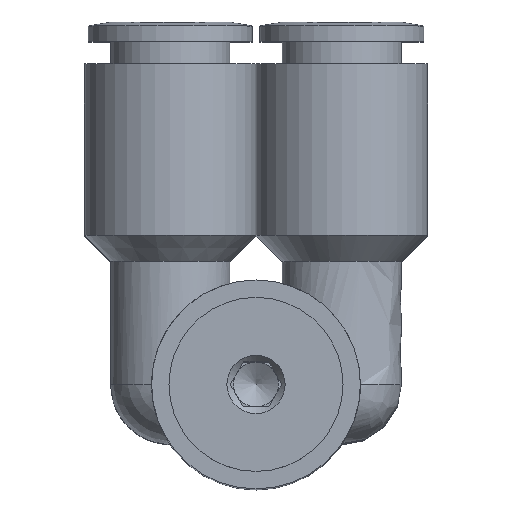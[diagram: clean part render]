
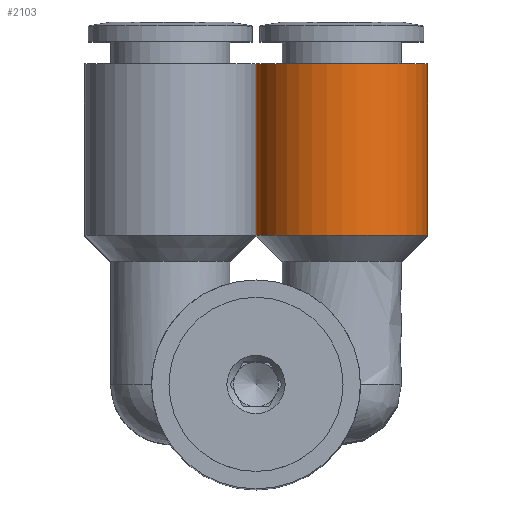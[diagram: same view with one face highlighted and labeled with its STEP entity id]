
A CAD part, top view. The second image highlights one B-rep face of the part: STEP entity #2103.
In plain terms, the highlighted free-form (B-spline) face has degree [1, 2] with [2, 9] control points.
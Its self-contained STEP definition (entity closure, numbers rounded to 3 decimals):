
#2038=CARTESIAN_POINT('',(0.,10.,30.0));
#2039=VERTEX_POINT('',#2038);
#2040=CARTESIAN_POINT('',(5.75,10.,30.0));
#2041=DIRECTION('',(0.0,-1.0,0.0));
#2042=DIRECTION('',(1.0,0.0,0.0));
#2043=AXIS2_PLACEMENT_3D('',#2040,#2041,#2042);
#2044=CIRCLE('',#2043,5.75);
#2045=EDGE_CURVE('',#2039,#2039,#2044,.T.);
#2053=CARTESIAN_POINT('',(0.,10.,30.0));
#2054=CARTESIAN_POINT('',(0.,21.5,30.0));
#2055=CARTESIAN_POINT('',(0.,10.,24.25));
#2056=CARTESIAN_POINT('',(0.,21.5,24.25));
#2057=CARTESIAN_POINT('',(5.75,10.0,24.25));
#2058=CARTESIAN_POINT('',(5.75,21.5,24.25));
#2059=CARTESIAN_POINT('',(11.5,10.,24.25));
#2060=CARTESIAN_POINT('',(11.5,21.5,24.25));
#2061=CARTESIAN_POINT('',(11.5,10.,30.0));
#2062=CARTESIAN_POINT('',(11.5,21.5,30.0));
#2063=CARTESIAN_POINT('',(11.5,10.,35.75));
#2064=CARTESIAN_POINT('',(11.5,21.5,35.75));
#2065=CARTESIAN_POINT('',(5.75,10.0,35.75));
#2066=CARTESIAN_POINT('',(5.75,21.5,35.75));
#2067=CARTESIAN_POINT('',(0.,10.,35.75));
#2068=CARTESIAN_POINT('',(0.,21.5,35.75));
#2069=CARTESIAN_POINT('',(0.,10.,30.0));
#2070=CARTESIAN_POINT('',(0.,21.5,30.0));
#2078=(BOUNDED_SURFACE()B_SPLINE_SURFACE(1,2,((#2053,#2055,#2057,#2059,#2061,#2063,#2065,#2067,#2069),(#2054,#2056,#2058,#2060,#2062,#2064,#2066,#2068,#2070)),.UNSPECIFIED.,.F.,.T.,.U.)B_SPLINE_SURFACE_WITH_KNOTS((2,2),(3,2,2,2,3),(-1.,1.),(0.0,9.032,18.064,27.096,36.128),.UNSPECIFIED.)GEOMETRIC_REPRESENTATION_ITEM()RATIONAL_B_SPLINE_SURFACE(((1.0,0.707,1.0,0.707,1.0,0.707,1.0,0.707,1.0),(1.0,0.707,1.0,0.707,1.0,0.707,1.0,0.707,1.0)))REPRESENTATION_ITEM('')SURFACE());
#2079=CARTESIAN_POINT('',(0.0,21.5,30.0));
#2080=VERTEX_POINT('',#2079);
#2081=CARTESIAN_POINT('',(5.75,21.5,30.0));
#2082=DIRECTION('',(0.0,-1.0,0.0));
#2083=DIRECTION('',(1.0,0.0,0.0));
#2084=AXIS2_PLACEMENT_3D('',#2081,#2082,#2083);
#2085=CIRCLE('',#2084,5.75);
#2086=EDGE_CURVE('',#2080,#2080,#2085,.T.);
#2087=ORIENTED_EDGE('',*,*,#2086,.T.);
#2088=CARTESIAN_POINT('',(0.0,21.5,30.0));
#2089=DIRECTION('',(0.0,-1.0,0.0));
#2090=VECTOR('',#2089,11.5);
#2091=LINE('',#2088,#2090);
#2092=EDGE_CURVE('',#2080,#2039,#2091,.T.);
#2093=ORIENTED_EDGE('',*,*,#2092,.T.);
#2094=ORIENTED_EDGE('',*,*,#2045,.F.);
#2095=CARTESIAN_POINT('',(0.0,21.5,30.0));
#2096=DIRECTION('',(0.0,-1.0,0.0));
#2097=VECTOR('',#2096,11.5);
#2098=LINE('',#2095,#2097);
#2099=EDGE_CURVE('',#2080,#2039,#2098,.T.);
#2100=ORIENTED_EDGE('',*,*,#2099,.F.);
#2101=EDGE_LOOP('',(#2087,#2093,#2094,#2100));
#2102=FACE_OUTER_BOUND('',#2101,.T.);
#2103=ADVANCED_FACE('',(#2102),#2078,.T.);
